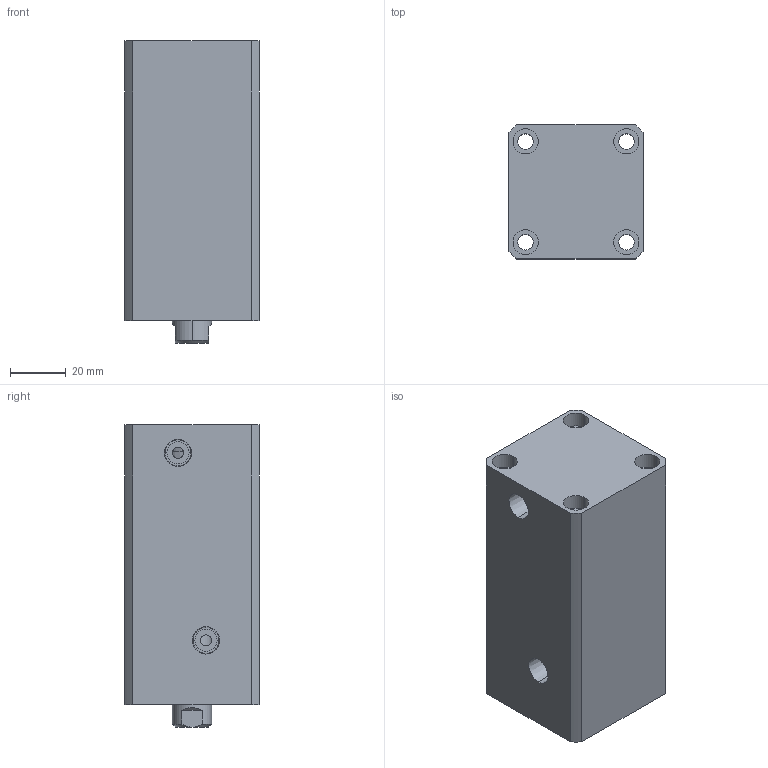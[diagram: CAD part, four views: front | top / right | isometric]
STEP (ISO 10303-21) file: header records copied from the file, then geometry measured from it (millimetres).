
FILE_DESCRIPTION (( 'STEP AP214' ), '1' );
FILE_NAME ('chtb-sd25x55n_asm.STEP', '2018-05-22T12:33:01', ( 'Windows' ), ( 'Microsoft' ), 'SwSTEP 2.0', 'SolidWorks 2015', '' );
FILE_SCHEMA (( 'AUTOMOTIVE_DESIGN' ));
Length unit declared in the file: millimetre
Products named in the file (4): CHTB-SD25X55NHSG; CHTB-SD25X55NBT; CHTB-25QG; chtb-sd25x55n_asm
Assembly tree (3 placements, depth 2):
  chtb-sd25x55n_asm
    CHTB-25QG
    CHTB-SD25X55NBT
    CHTB-SD25X55NHSG
Bounding box: 48 x 48 x 108 mm (x, y, z)
Volume: 196212.5 mm3; surface area: 50557.5 mm2
Topology: 3 solids, 3 shells, 144 faces, 377 edges, 257 vertices
Faces by surface type: cylinder 85, plane 36, cone 13, bspline 10
Entity records: 7940 total; most frequent: CARTESIAN_POINT 4299, ORIENTED_EDGE 742, DIRECTION 671, EDGE_CURVE 371, AXIS2_PLACEMENT_3D 278, VERTEX_POINT 257, EDGE_LOOP 182, ADVANCED_FACE 144
